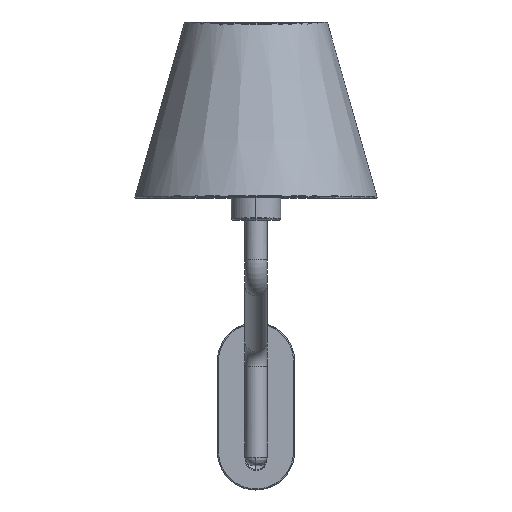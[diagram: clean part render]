
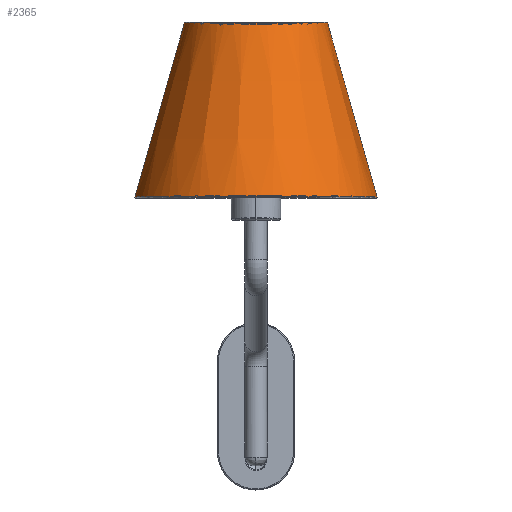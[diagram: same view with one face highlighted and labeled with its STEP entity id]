
A CAD part, top view. The second image highlights one B-rep face of the part: STEP entity #2365.
In plain terms, the highlighted conical face has half-angle 15.898 degrees and reference radius 105.462 mm.
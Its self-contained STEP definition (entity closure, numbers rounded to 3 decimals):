
#30=CONICAL_SURFACE('',#2580,105.462,0.277);
#183=B_SPLINE_CURVE_WITH_KNOTS('',3,(#5345,#5346,#5347,#5348,#5349,#5350,
#5351,#5352,#5353,#5354,#5355),.UNSPECIFIED.,.F.,.F.,(4,1,1,1,1,1,1,1,4),
(0.,0.125,0.25,0.375,0.5,0.625,0.75,0.875,1.),.UNSPECIFIED.);
#186=B_SPLINE_CURVE_WITH_KNOTS('',3,(#5577,#5578,#5579,#5580,#5581,#5582,
#5583,#5584,#5585,#5586,#5587,#5588,#5589),.UNSPECIFIED.,.F.,.F.,(4,1,1,
1,1,1,1,1,1,1,4),(0.,0.1,0.2,0.3,0.4,0.5,0.6,0.7,0.8,0.9,1.),
 .UNSPECIFIED.);
#398=FACE_OUTER_BOUND('',#557,.T.);
#557=EDGE_LOOP('',(#2082,#2083,#2084,#2085));
#782=LINE('',#5575,#919);
#783=LINE('',#5590,#920);
#919=VECTOR('',#3099,304.8);
#920=VECTOR('',#3100,304.8);
#1127=VERTEX_POINT('',#5138);
#1128=VERTEX_POINT('',#5344);
#1129=VERTEX_POINT('',#5574);
#1130=VERTEX_POINT('',#5576);
#1445=EDGE_CURVE('',#1128,#1127,#183,.T.);
#1448=EDGE_CURVE('',#1129,#1127,#782,.T.);
#1449=EDGE_CURVE('',#1130,#1129,#186,.T.);
#1450=EDGE_CURVE('',#1128,#1130,#783,.T.);
#2082=ORIENTED_EDGE('',*,*,#1448,.F.);
#2083=ORIENTED_EDGE('',*,*,#1449,.F.);
#2084=ORIENTED_EDGE('',*,*,#1450,.F.);
#2085=ORIENTED_EDGE('',*,*,#1445,.T.);
#2365=ADVANCED_FACE('',(#398),#30,.T.);
#2580=AXIS2_PLACEMENT_3D('',#5573,#3097,#3098);
#3097=DIRECTION('center_axis',(0.,0.,
-1.));
#3098=DIRECTION('ref_axis',(0.,1.,0.));
#3099=DIRECTION('',(-0.274,0.,0.962));
#3100=DIRECTION('',(-0.274,0.,-0.962));
#5138=CARTESIAN_POINT('',(64.962,0.,159.772));
#5344=CARTESIAN_POINT('',(-64.962,0.,159.772));
#5345=CARTESIAN_POINT('Ctrl Pts',(-64.962,0.,
159.772));
#5346=CARTESIAN_POINT('Ctrl Pts',(-65.047,8.538,159.772));
#5347=CARTESIAN_POINT('Ctrl Pts',(-61.54,25.491,159.772));
#5348=CARTESIAN_POINT('Ctrl Pts',(-47.141,47.135,159.772));
#5349=CARTESIAN_POINT('Ctrl Pts',(-25.504,61.578,159.772));
#5350=CARTESIAN_POINT('Ctrl Pts',(0.,66.653,
159.772));
#5351=CARTESIAN_POINT('Ctrl Pts',(25.504,61.578,159.772));
#5352=CARTESIAN_POINT('Ctrl Pts',(47.141,47.135,159.772));
#5353=CARTESIAN_POINT('Ctrl Pts',(61.54,25.491,159.772));
#5354=CARTESIAN_POINT('Ctrl Pts',(65.047,8.538,159.772));
#5355=CARTESIAN_POINT('Ctrl Pts',(64.962,0.,
159.772));
#5573=CARTESIAN_POINT('Origin',(0.,0.,
17.577));
#5574=CARTESIAN_POINT('',(109.962,0.,1.778));
#5575=CARTESIAN_POINT('',(109.962,0.,1.778));
#5576=CARTESIAN_POINT('',(-109.962,0.,1.778));
#5577=CARTESIAN_POINT('Ctrl Pts',(-109.962,0.,
1.778));
#5578=CARTESIAN_POINT('Ctrl Pts',(-110.023,11.534,1.778));
#5579=CARTESIAN_POINT('Ctrl Pts',(-106.286,34.534,1.778));
#5580=CARTESIAN_POINT('Ctrl Pts',(-90.444,65.708,1.778));
#5581=CARTESIAN_POINT('Ctrl Pts',(-65.704,90.436,1.778));
#5582=CARTESIAN_POINT('Ctrl Pts',(-34.544,106.314,1.778));
#5583=CARTESIAN_POINT('Ctrl Pts',(0.,111.785,
1.778));
#5584=CARTESIAN_POINT('Ctrl Pts',(34.544,106.314,1.778));
#5585=CARTESIAN_POINT('Ctrl Pts',(65.704,90.436,1.778));
#5586=CARTESIAN_POINT('Ctrl Pts',(90.444,65.708,1.778));
#5587=CARTESIAN_POINT('Ctrl Pts',(106.286,34.534,1.778));
#5588=CARTESIAN_POINT('Ctrl Pts',(110.023,11.534,1.778));
#5589=CARTESIAN_POINT('Ctrl Pts',(109.962,0.,
1.778));
#5590=CARTESIAN_POINT('',(-64.962,0.,159.772));
